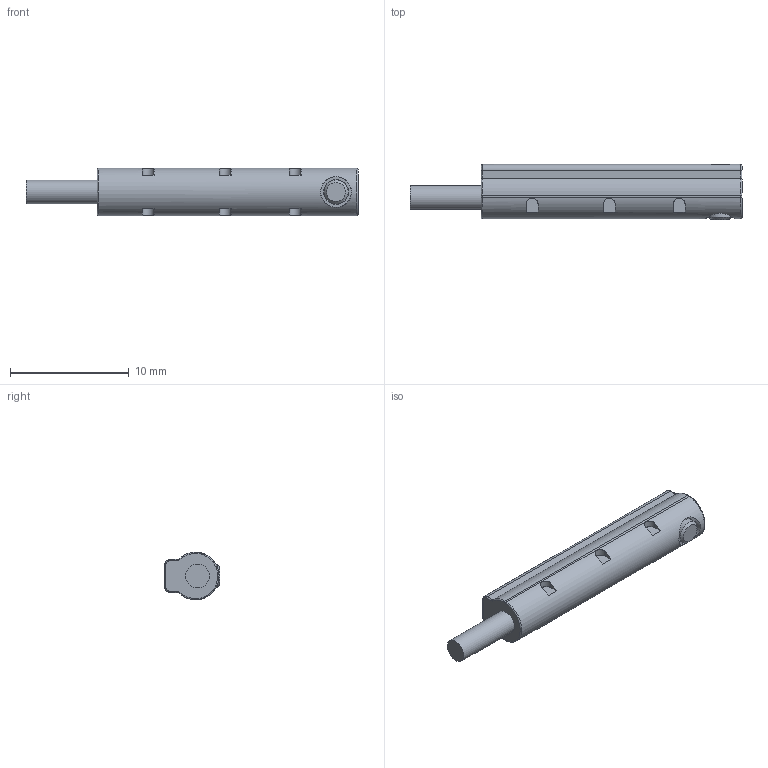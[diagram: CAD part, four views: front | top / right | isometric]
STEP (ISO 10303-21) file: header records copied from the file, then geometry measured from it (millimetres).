
FILE_DESCRIPTION (( 'STEP AP203' ), '1' );
FILE_NAME ('BIM-UNC.step', '2019-04-23T13:01:58', ( '' ), ( '' ), 'SwSTEP 2.0', 'SolidWorks 2017', '' );
FILE_SCHEMA (( 'CONFIG_CONTROL_DESIGN' ));
Length unit declared in the file: millimetre
Products named in the file (1): BIM-UNC
Bounding box: 28 x 4.65 x 4 mm (x, y, z)
Volume: 332.7 mm3; surface area: 421.3 mm2
Topology: 1 solids, 1 shells, 82 faces, 188 edges, 117 vertices
Faces by surface type: plane 38, cylinder 29, bspline 10, cone 5
Full cylindrical faces by diameter (mm): 2 x3, 2.1 x2, 2.6 x1
Entity records: 2579 total; most frequent: CARTESIAN_POINT 772, DIRECTION 350, ORIENTED_EDGE 350, EDGE_CURVE 175, AXIS2_PLACEMENT_3D 135, VERTEX_POINT 113, EDGE_LOOP 100, FACE_OUTER_BOUND 88
